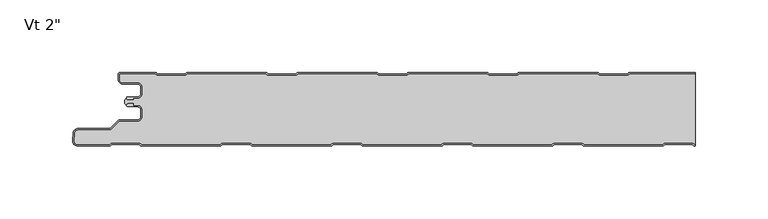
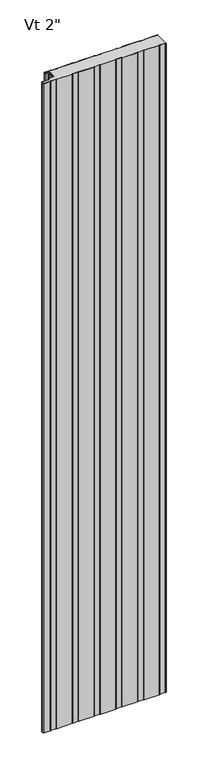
"""IFC4 building model written with IfcOpenShell, lengths in millimetres: plate geometry."""

from ifc_helpers import new_model, si_unit, point, frame, frame_2d, origin, origin_with_axes, place, context, project, spatial, polyline, circle_curve, trimmed, segment, composite_curve, outline, extrude, source, transform, mapped, element, save
from ifc_brep_helpers import plane_surface, cylinder_surface, revolved_surface, advanced_brep


def plate_b1e30be2(model_context):
    return source(origin(), model_context, "Body", "SolidModel", [
        extrude(outline(composite_curve([segment(polyline([(-195.5683, -22.4708996), (-196.5999998, -21.4391997), (-196.5999999, -19.0391998), (-195.5686882, -18.0078881)]), True, "CONTINUOUS"), segment(trimmed(circle_curve(frame_2d((-194.568691, -18.0078822)), 0.9999972), [point((-195.5686882, -18.0078881))], [point((-194.568691, -19.0078794))], True, "CARTESIAN"), True, "CONTINUOUS"), segment(polyline([(-194.568691, -19.0078794), (-190.5684873, -19.0078794), (-190.5684873, -18.0078848), (-187.8762775, -18.0078848)]), True, "CONTINUOUS"), segment(trimmed(circle_curve(frame_2d((-187.8762775, -14.7078891)), 3.2999957), [point((-187.8762775, -18.0078848))], [point((-184.5762818, -14.7078891))], True, "CARTESIAN"), True, "CONTINUOUS"), segment(polyline([(-184.5762818, -14.7078891), (-184.5762818, -10.3078979)]), True, "CONTINUOUS"), segment(trimmed(circle_curve(frame_2d((-187.8762777, -10.3078979)), 3.2999959), [point((-184.5762818, -10.3078979))], [point((-187.8762777, -7.007902))], True, "CARTESIAN"), True, "CONTINUOUS"), segment(polyline([(-187.8762777, -7.007902), (-198.2962563, -7.0079021)]), True, "CONTINUOUS"), segment(trimmed(circle_curve(frame_2d((-198.2962563, -5.2379079)), 1.7699942), [point((-198.2962563, -7.0079021))], [point((-200.0662504, -5.2379079))], False, "CARTESIAN"), True, "CONTINUOUS"), segment(polyline([(-200.0662504, -5.2379079), (-200.0662505, -1.0063606), (-175.5659738, -1.0063605), (-174.1803312, -2.2065996), (-154.8051649, -2.2065995), (-153.4195319, -1.0063688), (-99.3661166, -1.0063687), (-97.9804836, -2.2065994), (-78.6053173, -2.2065994), (-77.2196843, -1.0063687), (-23.166269, -1.0063686), (-21.780636, -2.2065993), (-2.4054697, -2.2065993), (-1.0198367, -1.0063686), (53.0335786, -1.0063685), (54.4192116, -2.2065992), (73.7943779, -2.2065991), (75.1800109, -1.0063684), (129.2334262, -1.0063683), (130.6190592, -2.206599), (149.9942255, -2.206599), (151.3798585, -1.0063683), (196.5999998, -1.0063682), (196.5999999, -49.7948828), (196.0405442, -49.7948828), (194.8403135, -48.5946521), (175.120901, -48.5946522), (173.9206703, -49.7948829), (119.8405385, -49.794883), (118.6403078, -48.5946523), (98.9208953, -48.5946523), (97.7206646, -49.794883), (43.6405328, -49.7948831), (42.4403021, -48.5946524), (22.7208896, -48.5946524), (21.5206589, -49.7948832), (-32.5594729, -49.7948833), (-33.7597036, -48.5946526), (-53.4791161, -48.5946526), (-54.6793468, -49.7948833), (-108.7594785, -49.7948834), (-109.9597093, -48.5946527), (-129.6791218, -48.5946527), (-130.8793525, -49.7948834), (-184.9594842, -49.7948835), (-186.1597149, -48.5946528), (-205.8791275, -48.5946529), (-207.079096, -49.7946214), (-229.0521174, -49.7946214)]), True, "CONTINUOUS"), segment(trimmed(circle_curve(frame_2d((-229.0521174, -47.2243821)), 2.5702393), [point((-229.0521174, -49.7946214))], [point((-231.6125697, -47.0002965))], False, "CARTESIAN"), True, "CONTINUOUS"), segment(polyline([(-231.6125697, -47.0002965), (-231.1765707, -42.0184756)]), True, "CONTINUOUS"), segment(trimmed(circle_curve(frame_2d((-228.519839, -42.4998662)), 2.6999926), [point((-231.1765707, -42.0184756))], [point((-228.519839, -39.7998736))], False, "CARTESIAN"), True, "CONTINUOUS"), segment(polyline([(-228.519839, -39.7998736), (-206.4247094, -39.7998736), (-200.9226383, -34.2978025)]), True, "CONTINUOUS"), segment(trimmed(circle_curve(frame_2d((-199.7205606, -35.4998802)), 1.6999946), [point((-200.9226383, -34.2978025))], [point((-199.7205606, -33.7998856))], False, "CARTESIAN"), True, "CONTINUOUS"), segment(polyline([(-199.7205606, -33.7998856), (-187.9096715, -33.7998856)]), True, "CONTINUOUS"), segment(trimmed(circle_curve(frame_2d((-187.9096715, -30.4498903)), 3.3499953), [point((-187.9096715, -33.7998856))], [point((-184.5596762, -30.4498903))], True, "CARTESIAN"), True, "CONTINUOUS"), segment(polyline([(-184.5596762, -30.4498903), (-184.5596762, -26.0498991)]), True, "CONTINUOUS"), segment(trimmed(circle_curve(frame_2d((-187.9096715, -26.0498991)), 3.3499953), [point((-184.5596762, -26.0498991))], [point((-187.9096715, -22.6999038))], True, "CARTESIAN"), True, "CONTINUOUS"), segment(polyline([(-187.9096715, -22.6999038), (-190.6087826, -22.6999038), (-190.6087826, -21.3014249), (-194.367176, -21.3014249)]), True, "CONTINUOUS"), segment(trimmed(circle_curve(frame_2d((-194.3686906, -22.5014215)), 1.1999976), [point((-194.367176, -21.3014249))], [point((-195.5683, -22.4708996))], True, "CARTESIAN"), True, "CONTINUOUS")], self_intersect=False)), origin_with_axes(), (0.0, 0.0, 1.0), 2400.0),
        advanced_brep(
        [(-194.568691, -17.0015405, 2400.0), (-195.5686883, -18.0015437, 2400.0), (-194.568691, -19.0015351, 2400.0), (-190.5684874, -19.0015351, 2400.0), (-190.5684874, -18.0015405, 2400.0), (-187.8762776, -18.0015405, 2400.0), (-184.5762819, -14.7015448, 2400.0), (-184.5762819, -10.3015536, 2400.0), (-187.8762774, -7.0015581, 2400.0), (-198.2962563, -7.0015581, 2400.0), (-200.0662505, -5.2315639, 2400.0), (-200.0662505, -1.0000163, 2400.0), (-175.5659739, -1.0000162, 2400.0), (-174.1803313, -2.2002553, 2400.0), (-154.8051649, -2.2002553, 2400.0), (-153.419532, -1.0000245, 2400.0), (-99.3661166, -1.0000245, 2400.0), (-97.9804837, -2.2002552, 2400.0), (-78.6053173, -2.2002551, 2400.0), (-77.2196844, -1.0000244, 2400.0), (-23.166269, -1.0000243, 2400.0), (-21.7806361, -2.200255, 2400.0), (-2.4054697, -2.200255, 2400.0), (-1.0198368, -1.0000243, 2400.0), (53.0335786, -1.0000242, 2400.0), (54.4192115, -2.2002549, 2400.0), (73.7943779, -2.2002548, 2400.0), (75.1800108, -1.0000241, 2400.0), (129.2334262, -1.000024, 2400.0), (130.6190591, -2.2002547, 2400.0), (149.9942255, -2.2002547, 2400.0), (151.3798584, -1.000024, 2400.0), (196.5999998, -1.0000239, 2400.0), (196.5999998, -2.39e-05, 2400.0), (151.5290095, -2.4e-05, 2400.0), (150.6123927, -0.3418125, 2400.0), (149.621345, -1.2002547, 2400.0), (130.9919396, -1.2002547, 2400.0), (130.0008919, -0.3418125, 2400.0), (129.084275, -2.4e-05, 2400.0), (75.3291619, -2.41e-05, 2400.0), (74.4125451, -0.3418126, 2400.0), (73.4214974, -1.2002548, 2400.0), (54.792092, -1.2002549, 2400.0), (53.8010443, -0.3418127, 2400.0), (52.8844274, -2.42e-05, 2400.0), (-0.8706857, -2.43e-05, 2400.0), (-1.7873025, -0.3418128, 2400.0), (-2.7783502, -1.200255, 2400.0), (-21.4077556, -1.200255, 2400.0), (-22.3988033, -0.3418128, 2400.0), (-23.3154202, -2.43e-05, 2400.0), (-77.0705333, -2.44e-05, 2400.0), (-77.9871501, -0.3418129, 2400.0), (-78.9781978, -1.2002551, 2400.0), (-97.6076032, -1.2002552, 2400.0), (-98.5986509, -0.341813, 2400.0), (-99.5152678, -2.44e-05, 2400.0), (-153.2703809, -2.45e-05, 2400.0), (-154.1869977, -0.3418131, 2400.0), (-155.1780454, -1.2002553, 2400.0), (-173.8074508, -1.2002553, 2400.0), (-174.7984985, -0.3418131, 2400.0), (-175.7152068, -2.46e-05, 2400.0), (-199.6662544, -1.63e-05, 2400.0), (-201.0662505, -1.4000124, 2400.0), (-201.0662505, -5.2315639, 2400.0), (-198.2962563, -8.0015581, 2400.0), (-187.8762774, -8.0015581, 2400.0), (-185.5762819, -10.3015536, 2400.0), (-185.5762819, -14.7015448, 2400.0), (-187.8762776, -17.0015405, 2400.0), (-194.568691, -17.0015405, 0.0), (-187.8762776, -17.0015405, 0.0), (-185.5762819, -14.7015448, 0.0), (-185.5762819, -10.3015536, 0.0), (-187.8762774, -8.0015581, 0.0), (-198.2962563, -8.0015581, 0.0), (-201.0662505, -5.2315639, 0.0), (-201.0662505, -1.4000124, 0.0), (-199.6662544, -1.63e-05, 0.0), (-175.7151154, -1.62e-05, 0.0), (-174.7984985, -0.3418131, 0.0), (-173.8074508, -1.2002553, 0.0), (-155.1780454, -1.2002553, 0.0), (-154.1869977, -0.3418131, 0.0), (-153.2703809, -2.45e-05, 0.0), (-99.5152678, -2.45e-05, 0.0), (-98.5986509, -0.341813, 0.0), (-97.6076032, -1.2002552, 0.0), (-78.9781978, -1.2002551, 0.0), (-77.9871501, -0.3418129, 0.0), (-77.0705333, -2.44e-05, 0.0), (-23.3154202, -2.43e-05, 0.0), (-22.3988033, -0.3418128, 0.0), (-21.4077556, -1.200255, 0.0), (-2.7783502, -1.200255, 0.0), (-1.7873025, -0.3418128, 0.0), (-0.8706857, -2.43e-05, 0.0), (52.8844274, -2.42e-05, 0.0), (53.8010443, -0.3418127, 0.0), (54.792092, -1.2002549, 0.0), (73.4214974, -1.2002548, 0.0), (74.4125451, -0.3418126, 0.0), (75.3291619, -2.41e-05, 0.0), (129.084275, -2.4e-05, 0.0), (130.0008919, -0.3418125, 0.0), (130.9919396, -1.2002547, 0.0), (149.621345, -1.2002547, 0.0), (150.6123927, -0.3418125, 0.0), (151.5290095, -2.4e-05, 0.0), (196.5999998, -2.39e-05, 0.0), (196.5999998, -1.0000239, 0.0), (151.3798584, -1.000024, 0.0), (149.9942255, -2.2002547, 0.0), (130.6190591, -2.2002547, 0.0), (129.2334262, -1.000024, 0.0), (75.1800108, -1.0000241, 0.0), (73.7943779, -2.2002548, 0.0), (54.4192115, -2.2002549, 0.0), (53.0335786, -1.0000242, 0.0), (-1.0198368, -1.0000243, 0.0), (-2.4054697, -2.200255, 0.0), (-21.7806361, -2.200255, 0.0), (-23.166269, -1.0000243, 0.0), (-77.2196844, -1.0000244, 0.0), (-78.6053173, -2.2002551, 0.0), (-97.9804837, -2.2002552, 0.0), (-99.3661166, -1.0000245, 0.0), (-153.419532, -1.0000245, 0.0), (-154.8051649, -2.2002553, 0.0), (-174.1803313, -2.2002553, 0.0), (-175.5659739, -1.0000162, 0.0), (-200.0662505, -1.0000163, 0.0), (-200.0662505, -5.2315639, 0.0), (-198.2962563, -7.0015581, 0.0), (-187.8762774, -7.0015581, 0.0), (-184.5762819, -10.3015536, 0.0), (-184.5762819, -14.7015448, 0.0), (-187.8762776, -18.0015405, 0.0), (-190.5684874, -18.0015405, 0.0), (-190.5684874, -19.0015351, 0.0), (-194.568691, -19.0015351, 0.0), (-195.5686882, -18.0015438, 0.0)],
        [
            (0, 1, circle_curve(frame((-194.568691, -18.0015378, 2400.0), z_axis=(0.0, 0.0, 1.0), x_axis=(1.0, 1.7886562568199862e-09, 0.0)), 0.9999973)),
            (1, 2, circle_curve(frame((-194.568691, -18.0015379, 2400.0), z_axis=(0.0, 0.0, 1.0), x_axis=(1.0, 1.7886562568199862e-09, 0.0)), 0.9999972)),
            (2, 3),
            (3, 4),
            (4, 5),
            (5, 6, circle_curve(frame((-187.8762776, -14.7015448, 2400.0), z_axis=(0.0, 0.0, 1.0), x_axis=(1.0, 1.7886562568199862e-09, 0.0)), 3.2999957)),
            (6, 7),
            (7, 8, circle_curve(frame((-187.8762774, -10.3015536, 2400.0), z_axis=(0.0, 0.0, 1.0), x_axis=(1.0, 1.7886562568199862e-09, 0.0)), 3.2999955)),
            (8, 9),
            (9, 10, circle_curve(frame((-198.2962563, -5.2315639, 2400.0), z_axis=(0.0, 0.0, -1.0), x_axis=(1.0, 1.7886562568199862e-09, 0.0)), 1.7699942)),
            (10, 11),
            (11, 12),
            (12, 13),
            (13, 14),
            (14, 15),
            (15, 16),
            (16, 17),
            (17, 18),
            (18, 19),
            (19, 20),
            (20, 21),
            (21, 22),
            (22, 23),
            (23, 24),
            (24, 25),
            (25, 26),
            (26, 27),
            (27, 28),
            (28, 29),
            (29, 30),
            (30, 31),
            (31, 32),
            (32, 33),
            (33, 34),
            (34, 35, circle_curve(frame((151.5290095, -1.4000212, 2400.0), z_axis=(0.0, 0.0, 1.0), x_axis=(1.0, 1.7886562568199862e-09, 0.0)), 1.3999972)),
            (35, 36),
            (36, 37),
            (37, 38),
            (38, 39, circle_curve(frame((129.084275, -1.4000212, 2400.0), z_axis=(0.0, 0.0, 1.0), x_axis=(1.0, 1.7886562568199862e-09, 0.0)), 1.3999972)),
            (39, 40),
            (40, 41, circle_curve(frame((75.3291619, -1.4000213, 2400.0), z_axis=(0.0, 0.0, 1.0), x_axis=(1.0, 1.7886562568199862e-09, 0.0)), 1.3999972)),
            (41, 42),
            (42, 43),
            (43, 44),
            (44, 45, circle_curve(frame((52.8844274, -1.4000214, 2400.0), z_axis=(0.0, 0.0, 1.0), x_axis=(1.0, 1.7886562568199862e-09, 0.0)), 1.3999972)),
            (45, 46),
            (46, 47, circle_curve(frame((-0.8706857, -1.4000215, 2400.0), z_axis=(0.0, 0.0, 1.0), x_axis=(1.0, 1.7886562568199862e-09, 0.0)), 1.3999972)),
            (47, 48),
            (48, 49),
            (49, 50),
            (50, 51, circle_curve(frame((-23.3154202, -1.4000215, 2400.0), z_axis=(0.0, 0.0, 1.0), x_axis=(1.0, 1.7886562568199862e-09, 0.0)), 1.3999972)),
            (51, 52),
            (52, 53, circle_curve(frame((-77.0705333, -1.4000216, 2400.0), z_axis=(0.0, 0.0, 1.0), x_axis=(1.0, 1.7886562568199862e-09, 0.0)), 1.3999972)),
            (53, 54),
            (54, 55),
            (55, 56),
            (56, 57, circle_curve(frame((-99.5152678, -1.4000216, 2400.0), z_axis=(0.0, 0.0, 1.0), x_axis=(1.0, 1.7886562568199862e-09, 0.0)), 1.3999972)),
            (57, 58),
            (58, 59, circle_curve(frame((-153.2703809, -1.4000217, 2400.0), z_axis=(0.0, 0.0, 1.0), x_axis=(1.0, 1.7886562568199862e-09, 0.0)), 1.3999972)),
            (59, 60),
            (60, 61),
            (61, 62),
            (62, 63, circle_curve(frame((-175.7151154, -1.4000218, 2400.0), z_axis=(0.0, 0.0, 1.0), x_axis=(1.0, 1.7886562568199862e-09, 0.0)), 1.3999972)),
            (63, 64),
            (64, 65, circle_curve(frame((-199.6662543, -1.4000124, 2400.0), z_axis=(0.0, 0.0, 1.0), x_axis=(1.0, 1.7886562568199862e-09, 0.0)), 1.3999962)),
            (65, 66),
            (66, 67, circle_curve(frame((-198.2962563, -5.2315639, 2400.0), z_axis=(0.0, 0.0, 1.0), x_axis=(1.0, 1.7886562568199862e-09, 0.0)), 2.7699942)),
            (67, 68),
            (68, 69, circle_curve(frame((-187.8762774, -10.3015536, 2400.0), z_axis=(0.0, 0.0, -1.0), x_axis=(1.0, 1.7886562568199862e-09, 0.0)), 2.2999955)),
            (69, 70),
            (70, 71, circle_curve(frame((-187.8762776, -14.7015448, 2400.0), z_axis=(0.0, 0.0, -1.0), x_axis=(1.0, 1.7886562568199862e-09, 0.0)), 2.2999957)),
            (71, 0),
            (72, 73),
            (73, 74, circle_curve(frame((-187.8762776, -14.7015448, 0.0), z_axis=(0.0, 0.0, 1.0), x_axis=(1.0, 1.7886562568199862e-09, 0.0)), 2.2999957)),
            (74, 75),
            (75, 76, circle_curve(frame((-187.8762774, -10.3015536, 0.0), z_axis=(0.0, 0.0, 1.0), x_axis=(1.0, 1.7886562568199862e-09, 0.0)), 2.2999955)),
            (76, 77),
            (77, 78, circle_curve(frame((-198.2962563, -5.2315639, 0.0), z_axis=(0.0, 0.0, -1.0), x_axis=(1.0, 1.7886562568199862e-09, 0.0)), 2.7699942)),
            (78, 79),
            (79, 80, circle_curve(frame((-199.6662543, -1.4000124, 0.0), z_axis=(0.0, 0.0, -1.0), x_axis=(1.0, 1.7886562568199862e-09, 0.0)), 1.3999962)),
            (80, 81),
            (81, 82, circle_curve(frame((-175.7151154, -1.4000218, 0.0), z_axis=(0.0, 0.0, -1.0), x_axis=(1.0, 1.7886562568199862e-09, 0.0)), 1.3999972)),
            (82, 83),
            (83, 84),
            (84, 85),
            (85, 86, circle_curve(frame((-153.2703809, -1.4000217, 0.0), z_axis=(0.0, 0.0, -1.0), x_axis=(1.0, 1.7886562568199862e-09, 0.0)), 1.3999972)),
            (86, 87),
            (87, 88, circle_curve(frame((-99.5152678, -1.4000216, 0.0), z_axis=(0.0, 0.0, -1.0), x_axis=(1.0, 1.7886562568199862e-09, 0.0)), 1.3999972)),
            (88, 89),
            (89, 90),
            (90, 91),
            (91, 92, circle_curve(frame((-77.0705333, -1.4000216, 0.0), z_axis=(0.0, 0.0, -1.0), x_axis=(1.0, 1.7886562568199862e-09, 0.0)), 1.3999972)),
            (92, 93),
            (93, 94, circle_curve(frame((-23.3154202, -1.4000215, 0.0), z_axis=(0.0, 0.0, -1.0), x_axis=(1.0, 1.7886562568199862e-09, 0.0)), 1.3999972)),
            (94, 95),
            (95, 96),
            (96, 97),
            (97, 98, circle_curve(frame((-0.8706857, -1.4000215, 0.0), z_axis=(0.0, 0.0, -1.0), x_axis=(1.0, 1.7886562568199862e-09, 0.0)), 1.3999972)),
            (98, 99),
            (99, 100, circle_curve(frame((52.8844274, -1.4000214, 0.0), z_axis=(0.0, 0.0, -1.0), x_axis=(1.0, 1.7886562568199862e-09, 0.0)), 1.3999972)),
            (100, 101),
            (101, 102),
            (102, 103),
            (103, 104, circle_curve(frame((75.3291619, -1.4000213, 0.0), z_axis=(0.0, 0.0, -1.0), x_axis=(1.0, 1.7886562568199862e-09, 0.0)), 1.3999972)),
            (104, 105),
            (105, 106, circle_curve(frame((129.084275, -1.4000212, 0.0), z_axis=(0.0, 0.0, -1.0), x_axis=(1.0, 1.7886562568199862e-09, 0.0)), 1.3999972)),
            (106, 107),
            (107, 108),
            (108, 109),
            (109, 110, circle_curve(frame((151.5290095, -1.4000212, 0.0), z_axis=(0.0, 0.0, -1.0), x_axis=(1.0, 1.7886562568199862e-09, 0.0)), 1.3999972)),
            (110, 111),
            (111, 112),
            (112, 113),
            (113, 114),
            (114, 115),
            (115, 116),
            (116, 117),
            (117, 118),
            (118, 119),
            (119, 120),
            (120, 121),
            (121, 122),
            (122, 123),
            (123, 124),
            (124, 125),
            (125, 126),
            (126, 127),
            (127, 128),
            (128, 129),
            (129, 130),
            (130, 131),
            (131, 132),
            (132, 133),
            (133, 134),
            (134, 135, circle_curve(frame((-198.2962563, -5.2315639, 0.0), z_axis=(0.0, 0.0, 1.0), x_axis=(1.0, 1.7886562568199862e-09, 0.0)), 1.7699942)),
            (135, 136),
            (136, 137, circle_curve(frame((-187.8762774, -10.3015536, 0.0), z_axis=(0.0, 0.0, -1.0), x_axis=(1.0, 1.7886562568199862e-09, 0.0)), 3.2999955)),
            (137, 138),
            (138, 139, circle_curve(frame((-187.8762776, -14.7015448, 0.0), z_axis=(0.0, 0.0, -1.0), x_axis=(1.0, 1.7886562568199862e-09, 0.0)), 3.2999957)),
            (139, 140),
            (140, 141),
            (141, 142),
            (142, 143, circle_curve(frame((-194.568691, -18.0015379, 0.0), z_axis=(0.0, 0.0, -1.0), x_axis=(1.0, 1.7886562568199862e-09, 0.0)), 0.9999972)),
            (143, 72, circle_curve(frame((-194.568691, -18.0015378, 0.0), z_axis=(0.0, 0.0, -1.0), x_axis=(1.0, 1.7886562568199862e-09, 0.0)), 0.9999973)),
            (32, 112),
            (111, 33),
            (71, 73),
            (72, 0),
            (70, 74),
            (69, 75),
            (68, 76),
            (67, 77),
            (66, 78),
            (65, 79),
            (64, 80),
            (63, 81),
            (62, 82),
            (61, 83),
            (60, 84),
            (59, 85),
            (58, 86),
            (57, 87),
            (56, 88),
            (55, 89),
            (54, 90),
            (53, 91),
            (52, 92),
            (51, 93),
            (50, 94),
            (49, 95),
            (48, 96),
            (47, 97),
            (46, 98),
            (45, 99),
            (44, 100),
            (43, 101),
            (42, 102),
            (41, 103),
            (40, 104),
            (39, 105),
            (38, 106),
            (37, 107),
            (36, 108),
            (35, 109),
            (34, 110),
            (31, 113),
            (30, 114),
            (29, 115),
            (28, 116),
            (27, 117),
            (26, 118),
            (25, 119),
            (24, 120),
            (23, 121),
            (22, 122),
            (21, 123),
            (20, 124),
            (19, 125),
            (18, 126),
            (17, 127),
            (16, 128),
            (15, 129),
            (14, 130),
            (13, 131),
            (12, 132),
            (11, 133),
            (10, 134),
            (9, 135),
            (8, 136),
            (7, 137),
            (6, 138),
            (5, 139),
            (4, 140),
            (3, 141),
            (2, 142),
            (1, 143),
        ],
        [
            plane_surface(frame((336.8000001, -2.37e-05, 2400.0), z_axis=(0.0, 0.0, 1.0), x_axis=(-1.7886562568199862e-09, 1.0, 0.0))),
            plane_surface(frame((336.8000001, -2.37e-05, 0.0), z_axis=(0.0, 0.0, -1.0), x_axis=(-1.7886562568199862e-09, 1.0, 0.0))),
            plane_surface(frame((196.5999999, -60.8000239, 2400.0), z_axis=(1.0, 1.7886562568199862e-09, 0.0), x_axis=(0.0, 0.0, -1.0))),
            plane_surface(frame((-194.568691, -17.0015405, 2400.0), z_axis=(-1.7886562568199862e-09, 1.0, 0.0), x_axis=(0.0, 0.0, -1.0))),
            revolved_surface(polyline([(-185.5762819, -14.701544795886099, 0.0), (-185.5762819, -14.701544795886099, 2400.0)]), (-187.8762776, -14.7015448, 2400.0), (0.0, 0.0, -1.0)),
            plane_surface(frame((-185.5762819, -14.7015448, 2400.0), z_axis=(-1.0, -1.7886562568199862e-09, 0.0), x_axis=(0.0, 0.0, -1.0))),
            revolved_surface(polyline([(-185.5762819, -10.301553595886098, 0.0), (-185.5762819, -10.301553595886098, 2400.0)]), (-187.8762774, -10.3015536, 2400.0), (0.0, 0.0, -1.0)),
            plane_surface(frame((-187.8762774, -8.0015581, 2400.0), z_axis=(1.7886562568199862e-09, -1.0, 0.0), x_axis=(0.0, 0.0, -1.0))),
            cylinder_surface(frame((-198.2962563, -5.2315639, 2400.0), z_axis=(0.0, 0.0, 1.0), x_axis=(1.0, 1.7886562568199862e-09, 0.0)), 2.7699942),
            plane_surface(frame((-201.0662505, -5.2315639, 2400.0), z_axis=(-1.0, -1.7886562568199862e-09, 0.0), x_axis=(0.0, 0.0, -1.0))),
            cylinder_surface(frame((-199.6662543, -1.4000124, 2400.0), z_axis=(0.0, 0.0, 1.0), x_axis=(1.0, 1.7886562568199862e-09, 0.0)), 1.3999962),
            plane_surface(frame((-199.6662544, -1.63e-05, 2400.0), z_axis=(-1.7886562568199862e-09, 1.0, 0.0), x_axis=(0.0, 0.0, -1.0))),
            cylinder_surface(frame((-175.7151154, -1.4000218, 2400.0), z_axis=(0.0, 0.0, 1.0), x_axis=(1.0, 1.7886562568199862e-09, 0.0)), 1.3999972),
            plane_surface(frame((-174.7984985, -0.3418131, 2400.0), z_axis=(0.6547276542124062, 0.7558648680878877, 0.0), x_axis=(0.0, 0.0, -1.0))),
            plane_surface(frame((-164.4927481, -1.2002553, 2400.0), z_axis=(-1.7886562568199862e-09, 1.0, 0.0), x_axis=(0.0, 0.0, -1.0))),
            plane_surface(frame((-155.1780454, -1.2002553, 2400.0), z_axis=(-0.654727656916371, 0.7558648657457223, 0.0), x_axis=(0.0, 0.0, -1.0))),
            cylinder_surface(frame((-153.2703809, -1.4000217, 2400.0), z_axis=(0.0, 0.0, 1.0), x_axis=(1.0, 1.7886562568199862e-09, 0.0)), 1.3999972),
            plane_surface(frame((-153.2703809, -2.45e-05, 2400.0), z_axis=(-1.7886512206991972e-09, 1.0, 0.0), x_axis=(0.0, 0.0, -1.0))),
            cylinder_surface(frame((-99.5152678, -1.4000216, 2400.0), z_axis=(0.0, 0.0, 1.0), x_axis=(1.0, 1.7886562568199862e-09, 0.0)), 1.3999972),
            plane_surface(frame((-98.5986509, -0.341813, 2400.0), z_axis=(0.6547276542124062, 0.7558648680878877, 0.0), x_axis=(0.0, 0.0, -1.0))),
            plane_surface(frame((-88.2929005, -1.2002551, 2400.0), z_axis=(-1.7886562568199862e-09, 1.0, 0.0), x_axis=(0.0, 0.0, -1.0))),
            plane_surface(frame((-78.9781978, -1.2002551, 2400.0), z_axis=(-0.654727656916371, 0.7558648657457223, 0.0), x_axis=(0.0, 0.0, -1.0))),
            cylinder_surface(frame((-77.0705333, -1.4000216, 2400.0), z_axis=(0.0, 0.0, 1.0), x_axis=(1.0, 1.7886562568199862e-09, 0.0)), 1.3999972),
            plane_surface(frame((-77.0705333, -2.44e-05, 2400.0), z_axis=(-1.7886512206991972e-09, 1.0, 0.0), x_axis=(0.0, 0.0, -1.0))),
            cylinder_surface(frame((-23.3154202, -1.4000215, 2400.0), z_axis=(0.0, 0.0, 1.0), x_axis=(1.0, 1.7886562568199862e-09, 0.0)), 1.3999972),
            plane_surface(frame((-22.3988033, -0.3418128, 2400.0), z_axis=(0.6547276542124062, 0.7558648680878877, 0.0), x_axis=(0.0, 0.0, -1.0))),
            plane_surface(frame((-12.0930529, -1.200255, 2400.0), z_axis=(-1.7886562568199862e-09, 1.0, 0.0), x_axis=(0.0, 0.0, -1.0))),
            plane_surface(frame((-2.7783502, -1.200255, 2400.0), z_axis=(-0.654727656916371, 0.7558648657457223, 0.0), x_axis=(0.0, 0.0, -1.0))),
            cylinder_surface(frame((-0.8706857, -1.4000215, 2400.0), z_axis=(0.0, 0.0, 1.0), x_axis=(1.0, 1.7886562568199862e-09, 0.0)), 1.3999972),
            plane_surface(frame((-0.8706857, -2.43e-05, 2400.0), z_axis=(-1.7886512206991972e-09, 1.0, 0.0), x_axis=(0.0, 0.0, -1.0))),
            cylinder_surface(frame((52.8844274, -1.4000214, 2400.0), z_axis=(0.0, 0.0, 1.0), x_axis=(1.0, 1.7886562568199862e-09, 0.0)), 1.3999972),
            plane_surface(frame((53.8010443, -0.3418127, 2400.0), z_axis=(0.6547276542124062, 0.7558648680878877, 0.0), x_axis=(0.0, 0.0, -1.0))),
            plane_surface(frame((64.1067947, -1.2002549, 2400.0), z_axis=(-1.7886562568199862e-09, 1.0, 0.0), x_axis=(0.0, 0.0, -1.0))),
            plane_surface(frame((73.4214974, -1.2002548, 2400.0), z_axis=(-0.654727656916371, 0.7558648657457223, 0.0), x_axis=(0.0, 0.0, -1.0))),
            cylinder_surface(frame((75.3291619, -1.4000213, 2400.0), z_axis=(0.0, 0.0, 1.0), x_axis=(1.0, 1.7886562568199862e-09, 0.0)), 1.3999972),
            plane_surface(frame((75.3291619, -2.41e-05, 2400.0), z_axis=(-1.7886512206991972e-09, 1.0, 0.0), x_axis=(0.0, 0.0, -1.0))),
            cylinder_surface(frame((129.084275, -1.4000212, 2400.0), z_axis=(0.0, 0.0, 1.0), x_axis=(1.0, 1.7886562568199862e-09, 0.0)), 1.3999972),
            plane_surface(frame((130.0008919, -0.3418125, 2400.0), z_axis=(0.6547276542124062, 0.7558648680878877, 0.0), x_axis=(0.0, 0.0, -1.0))),
            plane_surface(frame((140.3066423, -1.2002547, 2400.0), z_axis=(-1.7886562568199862e-09, 1.0, 0.0), x_axis=(0.0, 0.0, -1.0))),
            plane_surface(frame((149.621345, -1.2002547, 2400.0), z_axis=(-0.654727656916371, 0.7558648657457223, 0.0), x_axis=(0.0, 0.0, -1.0))),
            cylinder_surface(frame((151.5290095, -1.4000212, 2400.0), z_axis=(0.0, 0.0, 1.0), x_axis=(1.0, 1.7886562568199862e-09, 0.0)), 1.3999972),
            plane_surface(frame((151.5290095, -2.4e-05, 2400.0), z_axis=(-1.7886512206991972e-09, 1.0, 0.0), x_axis=(0.0, 0.0, -1.0))),
            plane_surface(frame((205.4332738, -1.0000239, 2400.0), z_axis=(1.7886512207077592e-09, -1.0, 0.0), x_axis=(0.0, 0.0, -1.0))),
            plane_surface(frame((151.3798584, -1.000024, 2400.0), z_axis=(0.654727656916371, -0.7558648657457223, 0.0), x_axis=(0.0, 0.0, -1.0))),
            plane_surface(frame((149.9942255, -2.2002547, 2400.0), z_axis=(1.7886562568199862e-09, -1.0, 0.0), x_axis=(0.0, 0.0, -1.0))),
            plane_surface(frame((130.6190591, -2.2002547, 2400.0), z_axis=(-0.6547276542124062, -0.7558648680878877, 0.0), x_axis=(0.0, 0.0, -1.0))),
            plane_surface(frame((129.2334262, -1.000024, 2400.0), z_axis=(1.7886512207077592e-09, -1.0, 0.0), x_axis=(0.0, 0.0, -1.0))),
            plane_surface(frame((75.1800108, -1.0000241, 2400.0), z_axis=(0.654727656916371, -0.7558648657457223, 0.0), x_axis=(0.0, 0.0, -1.0))),
            plane_surface(frame((73.7943779, -2.2002548, 2400.0), z_axis=(1.7886562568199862e-09, -1.0, 0.0), x_axis=(0.0, 0.0, -1.0))),
            plane_surface(frame((54.4192115, -2.2002549, 2400.0), z_axis=(-0.6547276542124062, -0.7558648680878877, 0.0), x_axis=(0.0, 0.0, -1.0))),
            plane_surface(frame((53.0335786, -1.0000242, 2400.0), z_axis=(1.7886512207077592e-09, -1.0, 0.0), x_axis=(0.0, 0.0, -1.0))),
            plane_surface(frame((-1.0198368, -1.0000243, 2400.0), z_axis=(0.654727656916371, -0.7558648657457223, 0.0), x_axis=(0.0, 0.0, -1.0))),
            plane_surface(frame((-2.4054697, -2.200255, 2400.0), z_axis=(1.7886562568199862e-09, -1.0, 0.0), x_axis=(0.0, 0.0, -1.0))),
            plane_surface(frame((-21.7806361, -2.200255, 2400.0), z_axis=(-0.6547276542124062, -0.7558648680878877, 0.0), x_axis=(0.0, 0.0, -1.0))),
            plane_surface(frame((-23.166269, -1.0000243, 2400.0), z_axis=(1.7886512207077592e-09, -1.0, 0.0), x_axis=(0.0, 0.0, -1.0))),
            plane_surface(frame((-77.2196844, -1.0000244, 2400.0), z_axis=(0.654727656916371, -0.7558648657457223, 0.0), x_axis=(0.0, 0.0, -1.0))),
            plane_surface(frame((-78.6053173, -2.2002551, 2400.0), z_axis=(1.7886562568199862e-09, -1.0, 0.0), x_axis=(0.0, 0.0, -1.0))),
            plane_surface(frame((-97.9804837, -2.2002552, 2400.0), z_axis=(-0.6547276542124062, -0.7558648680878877, 0.0), x_axis=(0.0, 0.0, -1.0))),
            plane_surface(frame((-99.3661166, -1.0000245, 2400.0), z_axis=(1.7886512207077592e-09, -1.0, 0.0), x_axis=(0.0, 0.0, -1.0))),
            plane_surface(frame((-153.419532, -1.0000245, 2400.0), z_axis=(0.654727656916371, -0.7558648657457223, 0.0), x_axis=(0.0, 0.0, -1.0))),
            plane_surface(frame((-154.8051649, -2.2002553, 2400.0), z_axis=(1.7886562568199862e-09, -1.0, 0.0), x_axis=(0.0, 0.0, -1.0))),
            plane_surface(frame((-174.1803313, -2.2002553, 2400.0), z_axis=(-0.6547276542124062, -0.7558648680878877, 0.0), x_axis=(0.0, 0.0, -1.0))),
            plane_surface(frame((-175.5659739, -1.0000162, 2400.0), z_axis=(1.7886562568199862e-09, -1.0, 0.0), x_axis=(0.0, 0.0, -1.0))),
            plane_surface(frame((-200.0662505, -1.0000163, 2400.0), z_axis=(1.0, 1.7886562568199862e-09, 0.0), x_axis=(0.0, 0.0, -1.0))),
            revolved_surface(polyline([(-196.5262621, -5.231563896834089, 0.0), (-196.5262621, -5.231563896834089, 2400.0)]), (-198.2962563, -5.2315639, 2400.0), (0.0, 0.0, -1.0)),
            plane_surface(frame((-198.2962563, -7.0015581, 2400.0), z_axis=(-1.7886562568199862e-09, 1.0, 0.0), x_axis=(0.0, 0.0, -1.0))),
            cylinder_surface(frame((-187.8762774, -10.3015536, 2400.0), z_axis=(0.0, 0.0, 1.0), x_axis=(1.0, 1.7886562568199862e-09, 0.0)), 3.2999955),
            plane_surface(frame((-184.5762819, -10.3015536, 2400.0), z_axis=(1.0, 1.7886562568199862e-09, 0.0), x_axis=(0.0, 0.0, -1.0))),
            cylinder_surface(frame((-187.8762776, -14.7015448, 2400.0), z_axis=(0.0, 0.0, 1.0), x_axis=(1.0, 1.7886562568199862e-09, 0.0)), 3.2999957),
            plane_surface(frame((-187.8762776, -18.0015405, 2400.0), z_axis=(1.7886562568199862e-09, -1.0, 0.0), x_axis=(0.0, 0.0, -1.0))),
            plane_surface(frame((-190.5684874, -18.0015405, 2400.0), z_axis=(1.0, 1.7886562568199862e-09, 0.0), x_axis=(0.0, 0.0, -1.0))),
            plane_surface(frame((-190.5684874, -19.0015351, 2400.0), z_axis=(1.7886562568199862e-09, -1.0, 0.0), x_axis=(0.0, 0.0, -1.0))),
            cylinder_surface(frame((-194.568691, -18.0015379, 2400.0), z_axis=(0.0, 0.0, 1.0), x_axis=(1.0, 1.7886562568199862e-09, 0.0)), 0.9999972),
            cylinder_surface(frame((-194.568691, -18.0015378, 2400.0), z_axis=(0.0, 0.0, 1.0), x_axis=(1.0, 1.7886562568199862e-09, 0.0)), 0.9999973),
        ],
        [
            (0, [[1, 2, 3, 4, 5, 6, 7, 8, 9, 10, 11, 12, 13, 14, 15, 16, 17, 18, 19, 20, 21, 22, 23, 24, 25, 26, 27, 28, 29, 30, 31, 32, 33, 34, 35, 36, 37, 38, 39, 40, 41, 42, 43, 44, 45, 46, 47, 48, 49, 50, 51, 52, 53, 54, 55, 56, 57, 58, 59, 60, 61, 62, 63, 64, 65, 66, 67, 68, 69, 70, 71, 72]]),
            (1, [[73, 74, 75, 76, 77, 78, 79, 80, 81, 82, 83, 84, 85, 86, 87, 88, 89, 90, 91, 92, 93, 94, 95, 96, 97, 98, 99, 100, 101, 102, 103, 104, 105, 106, 107, 108, 109, 110, 111, 112, 113, 114, 115, 116, 117, 118, 119, 120, 121, 122, 123, 124, 125, 126, 127, 128, 129, 130, 131, 132, 133, 134, 135, 136, 137, 138, 139, 140, 141, 142, 143, 144]]),
            (2, [[145, -112, 146, -33]]),
            (3, [[147, -73, 148, -72]]),
            (4, [[149, -74, -147, -71]]),
            (5, [[150, -75, -149, -70]]),
            (6, [[151, -76, -150, -69]]),
            (7, [[152, -77, -151, -68]]),
            (8, [[153, -78, -152, -67]]),
            (9, [[154, -79, -153, -66]]),
            (10, [[155, -80, -154, -65]]),
            (11, [[156, -81, -155, -64]]),
            (12, [[157, -82, -156, -63]]),
            (13, [[158, -83, -157, -62]]),
            (14, [[159, -84, -158, -61]]),
            (15, [[160, -85, -159, -60]]),
            (16, [[161, -86, -160, -59]]),
            (17, [[162, -87, -161, -58]]),
            (18, [[163, -88, -162, -57]]),
            (19, [[164, -89, -163, -56]]),
            (20, [[165, -90, -164, -55]]),
            (21, [[166, -91, -165, -54]]),
            (22, [[167, -92, -166, -53]]),
            (23, [[168, -93, -167, -52]]),
            (24, [[169, -94, -168, -51]]),
            (25, [[170, -95, -169, -50]]),
            (26, [[171, -96, -170, -49]]),
            (27, [[172, -97, -171, -48]]),
            (28, [[173, -98, -172, -47]]),
            (29, [[174, -99, -173, -46]]),
            (30, [[175, -100, -174, -45]]),
            (31, [[176, -101, -175, -44]]),
            (32, [[177, -102, -176, -43]]),
            (33, [[178, -103, -177, -42]]),
            (34, [[179, -104, -178, -41]]),
            (35, [[180, -105, -179, -40]]),
            (36, [[181, -106, -180, -39]]),
            (37, [[182, -107, -181, -38]]),
            (38, [[183, -108, -182, -37]]),
            (39, [[184, -109, -183, -36]]),
            (40, [[185, -110, -184, -35]]),
            (41, [[-34, -146, -111, -185]]),
            (42, [[-113, -145, -32, 186]]),
            (43, [[187, -114, -186, -31]]),
            (44, [[188, -115, -187, -30]]),
            (45, [[189, -116, -188, -29]]),
            (46, [[190, -117, -189, -28]]),
            (47, [[191, -118, -190, -27]]),
            (48, [[192, -119, -191, -26]]),
            (49, [[193, -120, -192, -25]]),
            (50, [[194, -121, -193, -24]]),
            (51, [[195, -122, -194, -23]]),
            (52, [[196, -123, -195, -22]]),
            (53, [[197, -124, -196, -21]]),
            (54, [[198, -125, -197, -20]]),
            (55, [[199, -126, -198, -19]]),
            (56, [[200, -127, -199, -18]]),
            (57, [[201, -128, -200, -17]]),
            (58, [[202, -129, -201, -16]]),
            (59, [[203, -130, -202, -15]]),
            (60, [[204, -131, -203, -14]]),
            (61, [[205, -132, -204, -13]]),
            (62, [[206, -133, -205, -12]]),
            (63, [[207, -134, -206, -11]]),
            (64, [[208, -135, -207, -10]]),
            (65, [[209, -136, -208, -9]]),
            (66, [[210, -137, -209, -8]]),
            (67, [[211, -138, -210, -7]]),
            (68, [[212, -139, -211, -6]]),
            (69, [[213, -140, -212, -5]]),
            (70, [[214, -141, -213, -4]]),
            (71, [[215, -142, -214, -3]]),
            (72, [[216, -143, -215, -2]]),
            (73, [[-148, -144, -216, -1]]),
        ],
    ),
        extrude(outline(composite_curve([segment(polyline([(-207.2415932, -50.8006641), (-229.0521174, -50.8006641)]), True, "CONTINUOUS"), segment(trimmed(circle_curve(frame_2d((-229.0521174, -47.2304248)), 3.5702393), [point((-229.0521174, -50.8006641))], [point((-232.6087618, -46.9191544))], False, "CARTESIAN"), True, "CONTINUOUS"), segment(polyline([(-232.6087618, -46.9191544), (-232.1690673, -41.8951078)]), True, "CONTINUOUS"), segment(trimmed(circle_curve(frame_2d((-228.519839, -42.5059089)), 3.6999926), [point((-232.1690673, -41.8951078))], [point((-228.519839, -38.8059163))], False, "CARTESIAN"), True, "CONTINUOUS"), segment(polyline([(-228.519839, -38.8059163), (-207.3773995, -38.8059163)]), True, "CONTINUOUS"), segment(trimmed(circle_curve(frame_2d((-207.3773995, -37.5059189)), 1.2999974), [point((-207.3773995, -38.8059163))], [point((-206.4581625, -38.4251558))], True, "CARTESIAN"), True, "CONTINUOUS"), segment(polyline([(-206.4581625, -38.4251558), (-201.6297451, -33.5967384)]), True, "CONTINUOUS"), segment(trimmed(circle_curve(frame_2d((-199.7205606, -35.5059229)), 2.6999946), [point((-201.6297451, -33.5967384))], [point((-199.7205606, -32.8059283))], False, "CARTESIAN"), True, "CONTINUOUS"), segment(polyline([(-199.7205606, -32.8059283), (-187.9096715, -32.8059282)]), True, "CONTINUOUS"), segment(trimmed(circle_curve(frame_2d((-187.9096715, -30.4559329)), 2.3499953), [point((-187.9096715, -32.8059282))], [point((-185.5596762, -30.4559329))], True, "CARTESIAN"), True, "CONTINUOUS"), segment(polyline([(-185.5596762, -30.4559329), (-185.5596762, -26.0559417)]), True, "CONTINUOUS"), segment(trimmed(circle_curve(frame_2d((-187.9096715, -26.0559417)), 2.3499953), [point((-185.5596762, -26.0559417))], [point((-187.9096715, -23.7059464))], True, "CARTESIAN"), True, "CONTINUOUS"), segment(polyline([(-187.9096715, -23.7059464), (-194.4289777, -23.7059464)]), True, "CONTINUOUS"), segment(trimmed(circle_curve(frame_2d((-194.3686906, -22.5074642)), 1.1999976), [point((-194.4289777, -23.7059464))], [point((-195.5683, -22.4769423))], False, "CARTESIAN"), True, "CONTINUOUS"), segment(trimmed(circle_curve(frame_2d((-194.3686906, -22.5074642)), 1.1999976), [point((-195.5683, -22.4769423))], [point((-194.367176, -21.3074676))], False, "CARTESIAN"), True, "CONTINUOUS"), segment(polyline([(-194.367176, -21.3074676), (-190.6087826, -21.3074675), (-190.6087826, -22.7059464), (-187.9096715, -22.7059464)]), True, "CONTINUOUS"), segment(trimmed(circle_curve(frame_2d((-187.9096715, -26.0559417)), 3.3499953), [point((-187.9096715, -22.7059464))], [point((-184.5596762, -26.0559417))], False, "CARTESIAN"), True, "CONTINUOUS"), segment(polyline([(-184.5596762, -26.0559417), (-184.5596762, -30.4559329)]), True, "CONTINUOUS"), segment(trimmed(circle_curve(frame_2d((-187.9096715, -30.4559329)), 3.3499953), [point((-184.5596762, -30.4559329))], [point((-187.9096715, -33.8059282))], False, "CARTESIAN"), True, "CONTINUOUS"), segment(polyline([(-187.9096715, -33.8059282), (-199.7205606, -33.8059283)]), True, "CONTINUOUS"), segment(trimmed(circle_curve(frame_2d((-199.7205606, -35.5059229)), 1.6999946), [point((-199.7205606, -33.8059283))], [point((-200.9226383, -34.3038452))], True, "CARTESIAN"), True, "CONTINUOUS"), segment(polyline([(-200.9226383, -34.3038452), (-206.4247094, -39.8059163), (-228.519839, -39.8059163)]), True, "CONTINUOUS"), segment(trimmed(circle_curve(frame_2d((-228.519839, -42.5059089)), 2.6999926), [point((-228.519839, -39.8059163))], [point((-231.1765707, -42.0245183))], True, "CARTESIAN"), True, "CONTINUOUS"), segment(polyline([(-231.1765707, -42.0245183), (-231.6125697, -47.0063392)]), True, "CONTINUOUS"), segment(trimmed(circle_curve(frame_2d((-229.0521174, -47.2304248)), 2.5702393), [point((-231.6125697, -47.0063392))], [point((-229.0521174, -49.8006641))], True, "CARTESIAN"), True, "CONTINUOUS"), segment(polyline([(-229.0521174, -49.8006641), (-207.079096, -49.8006641), (-205.8791275, -48.6006955), (-186.1597149, -48.6006955), (-184.9594842, -49.8009262), (-130.8793525, -49.8009261), (-129.6791218, -48.6006954), (-109.9597093, -48.6006954), (-108.7594785, -49.8009261), (-54.6793468, -49.800926), (-53.4791161, -48.6006953), (-33.7597036, -48.6006952), (-32.5594729, -49.8009259), (21.5206589, -49.8009258), (22.7208896, -48.6006951), (42.4403021, -48.6006951), (43.6405328, -49.8009258), (97.7206646, -49.8009257), (98.9208953, -48.600695), (118.6403078, -48.600695), (119.8405385, -49.8009257), (173.9206703, -49.8009256), (175.120901, -48.6006949), (194.8403135, -48.6006948), (196.0405442, -49.8009255), (196.5999999, -49.8009255), (196.5999999, -50.8009255), (196.2099792, -50.8009255)]), True, "CONTINUOUS"), segment(trimmed(circle_curve(frame_2d((196.2023259, -49.4009492)), 1.3999972), [point((196.2099792, -50.8009255))], [point((195.1582751, -50.3336604))], False, "CARTESIAN"), True, "CONTINUOUS"), segment(polyline([(195.1582751, -50.3336604), (194.4253095, -49.6006948), (175.5346403, -49.6006949), (174.8016956, -50.3336395)]), True, "CONTINUOUS"), segment(trimmed(circle_curve(frame_2d((173.7576448, -49.4009284)), 1.3999972), [point((174.8016956, -50.3336395))], [point((173.7576448, -50.8009256))], False, "CARTESIAN"), True, "CONTINUOUS"), segment(polyline([(173.7576448, -50.8009256), (120.0101316, -50.8009257)]), True, "CONTINUOUS"), segment(trimmed(circle_curve(frame_2d((120.0024783, -49.4009494)), 1.3999972), [point((120.0101316, -50.8009257))], [point((118.9584275, -50.3336605))], False, "CARTESIAN"), True, "CONTINUOUS"), segment(polyline([(118.9584275, -50.3336605), (118.2254619, -49.600695), (99.3347927, -49.600695), (98.601848, -50.3336397)]), True, "CONTINUOUS"), segment(trimmed(circle_curve(frame_2d((97.5577972, -49.4009285)), 1.3999972), [point((98.601848, -50.3336397))], [point((97.5577972, -50.8009257))], False, "CARTESIAN"), True, "CONTINUOUS"), segment(polyline([(97.5577972, -50.8009257), (43.810284, -50.8009258)]), True, "CONTINUOUS"), segment(trimmed(circle_curve(frame_2d((43.8026307, -49.4009495)), 1.3999972), [point((43.810284, -50.8009258))], [point((42.7585799, -50.3336607))], False, "CARTESIAN"), True, "CONTINUOUS"), segment(polyline([(42.7585799, -50.3336607), (42.0256143, -49.6006951), (23.1349451, -49.6006951), (22.4020004, -50.3336398)]), True, "CONTINUOUS"), segment(trimmed(circle_curve(frame_2d((21.3579496, -49.4009286)), 1.3999972), [point((22.4020004, -50.3336398))], [point((21.3579496, -50.8009258))], False, "CARTESIAN"), True, "CONTINUOUS"), segment(polyline([(21.3579496, -50.8009258), (-32.3895636, -50.8009259)]), True, "CONTINUOUS"), segment(trimmed(circle_curve(frame_2d((-32.3972169, -49.4009496)), 1.3999972), [point((-32.3895636, -50.8009259))], [point((-33.4412677, -50.3336608))], False, "CARTESIAN"), True, "CONTINUOUS"), segment(polyline([(-33.4412677, -50.3336608), (-34.1742333, -49.6006952), (-53.0649025, -49.6006953), (-53.7978472, -50.3336399)]), True, "CONTINUOUS"), segment(trimmed(circle_curve(frame_2d((-54.841898, -49.4009288)), 1.3999972), [point((-53.7978472, -50.3336399))], [point((-54.841898, -50.800926))], False, "CARTESIAN"), True, "CONTINUOUS"), segment(polyline([(-54.841898, -50.800926), (-108.5894112, -50.8009261)]), True, "CONTINUOUS"), segment(trimmed(circle_curve(frame_2d((-108.5970645, -49.4009498)), 1.3999972), [point((-108.5894112, -50.8009261))], [point((-109.6411153, -50.3336609))], False, "CARTESIAN"), True, "CONTINUOUS"), segment(polyline([(-109.6411153, -50.3336609), (-110.3740809, -49.6006954), (-129.2647501, -49.6006954), (-129.9976948, -50.3336401)]), True, "CONTINUOUS"), segment(trimmed(circle_curve(frame_2d((-131.0417456, -49.4009289)), 1.3999972), [point((-129.9976948, -50.3336401))], [point((-131.0417456, -50.8009261))], False, "CARTESIAN"), True, "CONTINUOUS"), segment(polyline([(-131.0417456, -50.8009261), (-184.7892588, -50.8009262)]), True, "CONTINUOUS"), segment(trimmed(circle_curve(frame_2d((-184.7969121, -49.4009499)), 1.3999972), [point((-184.7892588, -50.8009262))], [point((-185.8409629, -50.3336611))], False, "CARTESIAN"), True, "CONTINUOUS"), segment(polyline([(-185.8409629, -50.3336611), (-186.5739285, -49.6006955), (-205.4649139, -49.6006955), (-206.1976401, -50.3334218)]), True, "CONTINUOUS"), segment(trimmed(circle_curve(frame_2d((-207.2415932, -49.400798)), 1.3998661), [point((-206.1976401, -50.3334218))], [point((-207.2415932, -50.8006641))], False, "CARTESIAN"), True, "CONTINUOUS")], self_intersect=False)), origin_with_axes(), (0.0, 0.0, 1.0), 2400.0),
    ])


if __name__ == "__main__":
    model = new_model("IFC4")
    model_context = context("Model", 3, world=origin())
    ifc_project = project(units=[si_unit("LENGTHUNIT", "METRE", prefix="MILLI")], contexts=[model_context])
    site = spatial("IfcSite", under=ifc_project)
    building = spatial("IfcBuilding", under=site)
    placement = place(None, origin())
    plate_shape = plate_b1e30be2(model_context)
    element("IfcPlate", 1, ObjectType="KIP-42-Karrier-KP-R19-CP-Vt-SL3-8in_SL : Vt 2\"", at=placement, inside=building, context=model_context, shape_type="MappedRepresentation", body=[
        mapped(plate_shape, transform((0.0, 0.0, 0.0), x_axis=(1.0, 0.0, 0.0), y_axis=(0.0, 1.0, 0.0), z_axis=(0.0, 0.0, 1.0))),
    ])
    save(model, "model.ifc")
